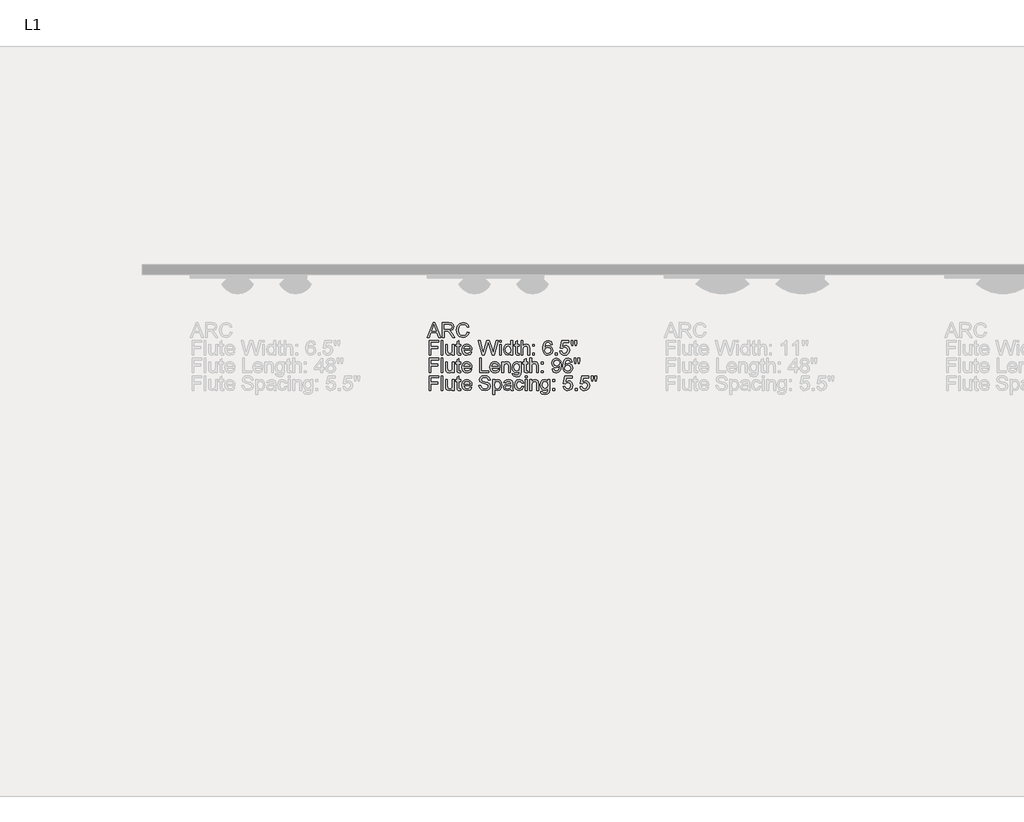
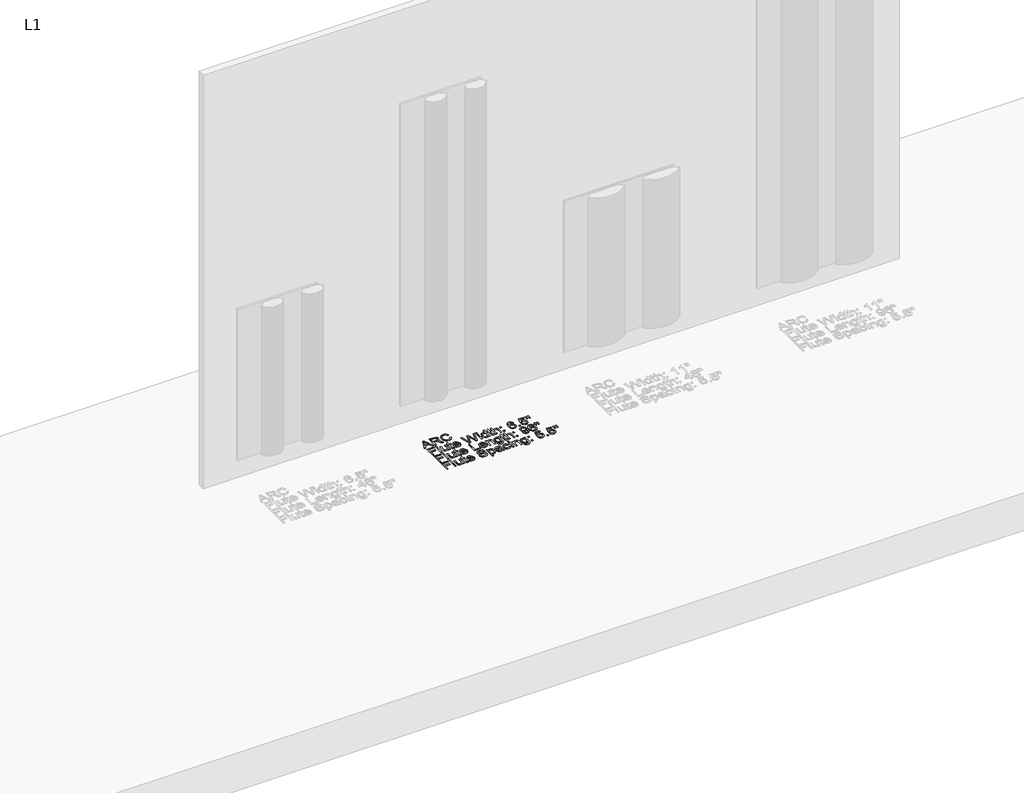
# One storey, part 3 of 17: 1 proxy.
"""IFC4 building model written with IfcOpenShell, lengths in millimetres."""

import ifcopenshell
import ifcopenshell.guid

model = None  # the IFC model being written
_history = None  # IfcOwnerHistory: only IFC2X3 demands one
_inside = {}  # id of a spatial element -> (the spatial element, [elements in it])
_under = {}  # id of a project, library or spatial element -> (it, [spatial elements below it])
_declared = {}  # id of a project -> (the project, [libraries it declares])
_typed = {}  # id of a type object -> (the type object, [elements of that type])
_made_of = {}  # id of a material, layer set ... -> (it, [elements and type objects made of it])


def new_model(schema):
    """Start an empty IFC model of exactly this schema.

    Asked for "IFC4X3", IfcOpenShell would pick the latest addendum, in which some entities
    have other attributes; the version numbers below select the first issue.
    IFC2X3 requires an IfcOwnerHistory on every rooted entity: one is made here for all.
    """
    global model, _history
    if schema == "IFC4X3":
        model = ifcopenshell.file(schema_version=(4, 3, 0, 0))
    else:
        model = ifcopenshell.file(schema=schema)
    _inside.clear()
    _under.clear()
    _declared.clear()
    _typed.clear()
    _made_of.clear()
    _history = None
    if model.schema == "IFC2X3":
        org = make("IfcOrganization", Name="unknown")
        user = make(
            "IfcPersonAndOrganization",
            ThePerson=make("IfcPerson", FamilyName="unknown"),
            TheOrganization=org,
        )
        app = make(
            "IfcApplication",
            ApplicationDeveloper=org,
            Version="unknown",
            ApplicationFullName="unknown",
            ApplicationIdentifier="unknown",
        )
        _history = make(
            "IfcOwnerHistory",
            OwningUser=user,
            OwningApplication=app,
            ChangeAction="ADDED",
            CreationDate=0,
        )
    return model


def make(cls, **values):
    """One entity of the class cls with the attributes given. An attribute that is None is left unset."""
    return model.create_entity(
        cls, **{name: value for name, value in values.items() if value is not None}
    )


def rooted(cls, **values):
    """An entity with a GlobalId (a new one), such as an element, a storey or a relation."""
    return make(cls, GlobalId=ifcopenshell.guid.new(), OwnerHistory=_history, **values)


def si_unit(unit_type, name, prefix=None):
    """IfcSIUnit, for example si_unit("LENGTHUNIT", "METRE", prefix="MILLI")."""
    return make("IfcSIUnit", UnitType=unit_type, Prefix=prefix, Name=name)


def assignment(units):
    """IfcUnitAssignment: the units of a project."""
    return None if units is None else make("IfcUnitAssignment", Units=units)


def point(xyz):
    """IfcCartesianPoint."""
    return None if xyz is None else make("IfcCartesianPoint", Coordinates=xyz)


def direction(xyz):
    """IfcDirection."""
    return None if xyz is None else make("IfcDirection", DirectionRatios=xyz)


def frame(location, z_axis=None, x_axis=None):
    """IfcAxis2Placement3D, a coordinate frame: its origin and axes. An axis left out is left unset."""
    return make(
        "IfcAxis2Placement3D",
        Location=point(location),
        Axis=direction(z_axis),
        RefDirection=direction(x_axis),
    )


def origin():
    """The frame at (0, 0, 0) with its axes left unset."""
    return frame((0.0, 0.0, 0.0))


def origin_with_axes():
    """The frame at (0, 0, 0) with the z axis (0, 0, 1) and the x axis (1, 0, 0) written out."""
    return frame((0.0, 0.0, 0.0), z_axis=(0.0, 0.0, 1.0), x_axis=(1.0, 0.0, 0.0))


def place(relative_to, where):
    """IfcLocalPlacement: puts the frame where relative to a parent placement (None: the world)."""
    return make(
        "IfcLocalPlacement", PlacementRelTo=relative_to, RelativePlacement=where
    )


def context(
    kind, dimensions, precision=None, world=None, true_north=None, identifier=None
):
    """IfcGeometricRepresentationContext, for example the 3D "Model" context."""
    return make(
        "IfcGeometricRepresentationContext",
        ContextIdentifier=identifier,
        ContextType=kind,
        CoordinateSpaceDimension=dimensions,
        Precision=precision,
        WorldCoordinateSystem=world,
        TrueNorth=true_north,
    )


def project(units=None, contexts=None):
    """IfcProject with its units and contexts."""
    return rooted(
        "IfcProject",
        Name="project",
        RepresentationContexts=contexts,
        UnitsInContext=assignment(units),
    )


def spatial(cls, under=None, at=None, **own):
    """A site, building, storey or space (cls), placed at a placement, below another one or the project."""
    s = rooted(cls, ObjectPlacement=at, **own)
    if under is not None:
        _under.setdefault(under.id(), (under, []))[1].append(s)
    return s


def polyline(points):
    """IfcPolyline through the points."""
    return make("IfcPolyline", Points=[point(p) for p in points])


def outline(outer, holes=None, kind="AREA"):
    """IfcArbitraryClosedProfileDef: a profile drawn as a closed curve; with holes, ...WithVoids."""
    if holes is None:
        return make("IfcArbitraryClosedProfileDef", ProfileType=kind, OuterCurve=outer)
    return make(
        "IfcArbitraryProfileDefWithVoids",
        ProfileType=kind,
        OuterCurve=outer,
        InnerCurves=holes,
    )


def extrude(swept, where, along, depth):
    """IfcExtrudedAreaSolid: the profile swept, set in the frame where, extruded along a direction by depth."""
    return make(
        "IfcExtrudedAreaSolid",
        SweptArea=swept,
        Position=where,
        ExtrudedDirection=direction(along),
        Depth=depth,
    )


def shape(context_of_items, identifier, shape_type, items):
    """IfcShapeRepresentation: the items that make up one representation, for example the "Body"."""
    return make(
        "IfcShapeRepresentation",
        ContextOfItems=context_of_items,
        RepresentationIdentifier=identifier,
        RepresentationType=shape_type,
        Items=items,
    )


def made_of(thing, what):
    """Note that an element or type object is made of a material, layer set ...; save() writes the relation."""
    if what is not None:
        _made_of.setdefault(what.id(), (what, []))[1].append(thing)
    return thing


def element(
    cls,
    number,
    at=None,
    inside=None,
    cuts=None,
    type_object=None,
    material=None,
    context=None,
    identifier="Body",
    shape_type=None,
    held_by="IfcProductDefinitionShape",
    body=None,
    shapes=None,
    **own,
):
    """One element of the class cls, such as IfcWall. Its Tag is "e" and its number.

    at: its placement. inside: the storey or other place that contains it. cuts: it is an
    opening in that element (IfcRelVoidsElement). A single representation is given by context,
    identifier, shape_type and body (its items); several are given by shapes. held_by: the class
    of the entity that holds the representations. save() writes the other relations.
    """
    e = rooted(cls, Tag="e%d" % number, ObjectPlacement=at, **own)
    if body is not None:
        shapes = [shape(context, identifier, shape_type, body)]
    if shapes is not None:
        e.Representation = make(held_by, Representations=shapes)
    if inside is not None:
        _inside.setdefault(inside.id(), (inside, []))[1].append(e)
    if cuts is not None:
        rooted(
            "IfcRelVoidsElement", RelatingBuildingElement=cuts, RelatedOpeningElement=e
        )
    if type_object is not None:
        _typed.setdefault(type_object.id(), (type_object, []))[1].append(e)
    return made_of(e, material)


def aggregate(whole, parts):
    """IfcRelAggregates: a whole, such as a stair, and the parts it consists of."""
    return rooted("IfcRelAggregates", RelatingObject=whole, RelatedObjects=parts)


def save(model, path):
    """Write the relations noted so far, then the file.

    IfcRelAggregates (storeys below a building ...), IfcRelContainedInSpatialStructure (elements
    in a storey), IfcRelDefinesByType, IfcRelAssociatesMaterial and IfcRelDeclares: one each for
    every whole, place, type object, material and project.
    """
    for whole, parts in _under.values():
        aggregate(whole, parts)
    for where, things in _inside.values():
        rooted(
            "IfcRelContainedInSpatialStructure",
            RelatedElements=things,
            RelatingStructure=where,
        )
    for kind, things in _typed.values():
        rooted("IfcRelDefinesByType", RelatedObjects=things, RelatingType=kind)
    for what, things in _made_of.values():
        rooted("IfcRelAssociatesMaterial", RelatedObjects=things, RelatingMaterial=what)
    for by, libraries in _declared.values():
        rooted("IfcRelDeclares", RelatingContext=by, RelatedDefinitions=libraries)
    model.write(path)


model = new_model("IFC4")

# Units and contexts
model_context = context("Model", 3, world=origin())
ifc_project = project(units=[si_unit("LENGTHUNIT", "METRE", prefix="MILLI")], contexts=[model_context])

# Site, building, storey
site = spatial("IfcSite", under=ifc_project)
building = spatial("IfcBuilding", under=site)
storey = spatial("IfcBuildingStorey", under=building, Name="L1", Elevation=0.0)

# Proxy
placement = place(None, origin())
element("IfcBuildingElementProxy", 1, Name="3\" Arial", ObjectType="3\" Arial", at=placement, inside=storey, context=model_context, shape_type="SweptSolid", body=[
    extrude(outline(polyline([(2749.0267247, -355.6), (2779.5822674, -279.0522917), (2787.7304121, -279.0522917), (2818.2672665, -355.6), (2808.1568392, -355.6), (2799.4106655, -331.6788411), (2767.8646372, -331.6788411), (2759.1184635, -355.6), (2749.0267247, -355.6)]), holes=[polyline([(2771.3780575, -322.1103776), (2795.9159337, -322.1103776), (2789.0012237, -303.2911534), (2783.6376514, -288.6207552), (2778.872108, -301.6465737), (2771.3780575, -322.1103776)])]), origin_with_axes(), (0.0, 0.0, 1.0), 3.175),
    extrude(outline(polyline([(2828.4898242, -355.6), (2828.4898242, -279.0522917), (2861.4748597, -279.0522917), (2876.7900079, -281.1173605), (2885.1624135, -288.424527), (2888.2927214, -300.0019941), (2883.1066889, -313.7940372), (2867.0813813, -320.9143197), (2872.5197072, -325.0070804), (2880.2753955, -334.8558701), (2893.0395763, -355.6), (2881.9199751, -355.6), (2871.9590551, -339.7335439), (2864.764019, -329.23066), (2859.7088054, -324.2688884), (2855.1581787, -322.4467689), (2849.6077223, -322.1103776), (2838.0582878, -322.1103776), (2838.0582878, -355.6), (2828.4898242, -355.6)]), holes=[polyline([(2838.0582878, -312.5419141), (2859.4752003, -312.5419141), (2870.3985732, -311.1870047), (2876.6031238, -306.8512946), (2878.7242578, -300.3570738), (2874.6782181, -291.928603), (2861.8860046, -288.6207552), (2838.0582878, -288.6207552), (2838.0582878, -312.5419141)])]), origin_with_axes(), (0.0, 0.0, 1.0), 3.175),
    extrude(outline(polyline([(2958.86014, -328.3896818), (2968.4286035, -330.8565513), (2964.0134678, -342.0065212), (2957.0847415, -350.1523298), (2947.9834881, -355.1351259), (2937.0507709, -356.7960579), (2917.138275, -351.7688769), (2905.4580217, -337.2106091), (2901.4493587, -316.7468053), (2905.981297, -295.9466101), (2918.8669525, -282.4629256), (2937.2563434, -277.8562337), (2947.7475469, -279.3466341), (2956.4213031, -283.817835), (2963.0066299, -290.9941827), (2967.2325456, -300.600023), (2957.664082, -302.8800085), (2949.8149518, -291.1156573), (2936.8825753, -287.4246973), (2921.9131626, -291.517458), (2913.4566592, -302.5062404), (2911.0178223, -316.7281169), (2913.9051809, -333.2112904), (2922.8943039, -343.7422068), (2936.0976623, -347.2275944), (2950.7400278, -342.4807394), (2958.86014, -328.3896818)])), origin_with_axes(), (0.0, 0.0, 1.0), 3.175),
    extrude(outline(polyline([(2757.9224056, -448.5448112), (2757.9224056, -371.9971029), (2809.3528971, -371.9971029), (2809.3528971, -381.5655664), (2767.4908691, -381.5655664), (2767.4908691, -404.2906673), (2803.3726074, -404.2906673), (2803.3726074, -413.8591309), (2767.4908691, -413.8591309), (2767.4908691, -448.5448112), (2757.9224056, -448.5448112)])), origin_with_axes(), (0.0, 0.0, 1.0), 3.175),
    extrude(outline(polyline([(2821.3134766, -448.5448112), (2821.3134766, -371.9971029), (2830.8819401, -371.9971029), (2830.8819401, -448.5448112), (2821.3134766, -448.5448112)])), origin_with_axes(), (0.0, 0.0, 1.0), 3.175),
    extrude(outline(polyline([(2881.1163737, -448.5448112), (2881.1163737, -438.8829056), (2873.6223232, -447.0263783), (2863.8482872, -449.7408691), (2854.84982, -447.8346518), (2848.6452694, -443.05042), (2845.7952876, -436.0048912), (2845.2346354, -427.1092103), (2845.2346354, -392.3300879), (2854.803099, -392.3300879), (2854.803099, -422.6053046), (2855.3824395, -432.3606522), (2859.1668416, -438.0886484), (2866.2964683, -440.1724056), (2874.2857615, -438.0419274), (2879.5652361, -432.2391775), (2881.1163737, -421.5774423), (2881.1163737, -392.3300879), (2890.6848372, -392.3300879), (2890.6848372, -448.5448112), (2881.1163737, -448.5448112)])), origin_with_axes(), (0.0, 0.0, 1.0), 3.175),
    extrude(outline(polyline([(2924.1744596, -440.5648621), (2925.3705176, -448.8251373), (2918.2128583, -449.7408691), (2910.1955324, -448.1523547), (2906.1962137, -443.9848403), (2905.0375326, -433.1268768), (2905.0375326, -401.8985514), (2897.8611849, -401.8985514), (2897.8611849, -392.3300879), (2905.0375326, -392.3300879), (2905.0375326, -378.6688636), (2914.6059961, -373.0436536), (2914.6059961, -392.3300879), (2924.1744596, -392.3300879), (2924.1744596, -401.8985514), (2914.6059961, -401.8985514), (2914.6059961, -432.8465507), (2915.110583, -437.7802897), (2916.7458185, -439.5276556), (2920.0069452, -440.1724056), (2924.1744596, -440.5648621)])), origin_with_axes(), (0.0, 0.0, 1.0), 3.175),
    extrude(outline(polyline([(2973.1007049, -431.8), (2982.4822843, -432.9960579), (2973.708078, -445.3490939), (2957.3650675, -449.7408691), (2946.138008, -447.846332), (2937.4992927, -442.1627208), (2931.9908852, -433.0591313), (2930.1547494, -420.9046597), (2932.0095736, -408.3413792), (2937.5740463, -398.9457834), (2946.0959591, -393.0869683), (2956.8231038, -391.1340299), (2967.2161932, -393.0822962), (2975.5208533, -398.927095), (2980.9661875, -408.3040024), (2982.7812988, -420.8485945), (2982.7252336, -423.4275944), (2939.7232129, -423.4275944), (2945.2269483, -435.855384), (2957.5519516, -440.1724056), (2966.9335311, -438.1727462), (2973.1007049, -431.8)]), holes=[polyline([(2939.7232129, -413.8591309), (2973.2128353, -413.8591309), (2969.3817122, -405.1877108), (2956.785727, -400.7024935), (2945.0026874, -404.2813231), (2939.7232129, -413.8591309)])]), origin_with_axes(), (0.0, 0.0, 1.0), 3.175),
    extrude(outline(polyline([(3037.14587, -448.5448112), (3016.2709212, -371.9971029), (3026.1383993, -371.9971029), (3038.2484859, -422.3062901), (3041.986167, -437.8363549), (3045.9854857, -424.100377), (3061.1604709, -371.9971029), (3075.3823474, -371.9971029), (3086.4085065, -409.7663701), (3094.6127165, -437.8363549), (3098.2382671, -422.7548118), (3110.4417958, -371.9971029), (3120.3279622, -371.9971029), (3099.4717019, -448.5448112), (3089.2304557, -448.5448112), (3070.8597533, -389.4894503), (3068.2994417, -381.2478635), (3065.4214273, -391.1714068), (3048.6953045, -448.5448112), (3037.14587, -448.5448112)])), origin_with_axes(), (0.0, 0.0, 1.0), 3.175),
    extrude(outline(polyline([(3128.7003678, -448.5448112), (3128.7003678, -392.3300879), (3138.2688314, -392.3300879), (3138.2688314, -448.5448112), (3128.7003678, -448.5448112)])), origin_with_axes(), (0.0, 0.0, 1.0), 3.175),
    extrude(outline(polyline([(3128.7003678, -381.5655664), (3128.7003678, -371.9971029), (3138.2688314, -371.9971029), (3138.2688314, -381.5655664), (3128.7003678, -381.5655664)])), origin_with_axes(), (0.0, 0.0, 1.0), 3.175),
    extrude(outline(polyline([(3187.307207, -448.5448112), (3187.307207, -439.5183114), (3180.9765097, -447.1852297), (3172.2256639, -449.7408691), (3160.3772149, -446.0405649), (3152.0048093, -435.7152209), (3149.0333529, -420.4935148), (3151.7712043, -405.2624644), (3159.9754142, -394.778269), (3172.1882871, -391.1340299), (3181.0092144, -393.7410625), (3187.307207, -400.5156094), (3187.307207, -371.9971029), (3196.8756706, -371.9971029), (3196.8756706, -448.5448112), (3187.307207, -448.5448112)]), holes=[polyline([(3158.6018164, -420.4561379), (3162.918838, -435.2666992), (3173.104019, -440.1724056), (3183.1677252, -435.4909601), (3187.307207, -421.1849858), (3183.0929716, -405.6549209), (3172.7115625, -400.7024935), (3162.638512, -405.4586927), (3158.6018164, -420.4561379)])]), origin_with_axes(), (0.0, 0.0, 1.0), 3.175),
    extrude(outline(polyline([(3231.5613509, -440.5648621), (3232.7574089, -448.8251373), (3225.5997496, -449.7408691), (3217.5824237, -448.1523547), (3213.583105, -443.9848403), (3212.4244238, -433.1268768), (3212.4244238, -401.8985514), (3205.2480762, -401.8985514), (3205.2480762, -392.3300879), (3212.4244238, -392.3300879), (3212.4244238, -378.6688636), (3221.9928874, -373.0436536), (3221.9928874, -392.3300879), (3231.5613509, -392.3300879), (3231.5613509, -401.8985514), (3221.9928874, -401.8985514), (3221.9928874, -432.8465507), (3222.4974743, -437.7802897), (3224.1327098, -439.5276556), (3227.3938365, -440.1724056), (3231.5613509, -440.5648621)])), origin_with_axes(), (0.0, 0.0, 1.0), 3.175),
    extrude(outline(polyline([(3241.1298145, -448.5448112), (3241.1298145, -371.9971029), (3250.698278, -371.9971029), (3250.698278, -400.1418413), (3258.1596238, -393.3859828), (3267.3496472, -391.1340299), (3278.0954802, -393.5915553), (3284.6177337, -400.3847906), (3286.5800163, -412.9620874), (3286.5800163, -448.5448112), (3277.0115527, -448.5448112), (3277.0115527, -413.9525729), (3273.9653427, -403.860834), (3265.3312994, -400.7024935), (3257.4915133, -402.8329717), (3252.2587598, -408.607689), (3250.698278, -418.6807394), (3250.698278, -448.5448112), (3241.1298145, -448.5448112)])), origin_with_axes(), (0.0, 0.0, 1.0), 3.175),
    extrude(outline(polyline([(3302.1287695, -401.8985514), (3302.1287695, -392.3300879), (3311.6972331, -392.3300879), (3311.6972331, -401.8985514), (3302.1287695, -401.8985514)])), origin_with_axes(), (0.0, 0.0, 1.0), 3.175),
    extrude(outline(polyline([(3302.1287695, -448.5448112), (3302.1287695, -438.9763477), (3311.6972331, -438.9763477), (3311.6972331, -448.5448112), (3302.1287695, -448.5448112)])), origin_with_axes(), (0.0, 0.0, 1.0), 3.175),
    extrude(outline(polyline([(3406.1858106, -392.3300879), (3396.617347, -393.5261458), (3392.9917964, -385.5461967), (3383.4046444, -381.5655664), (3374.7706012, -383.8829287), (3368.2390035, -392.5823814), (3365.5198405, -409.6355512), (3373.9576555, -402.0013377), (3384.4138183, -399.5064355), (3393.253434, -401.2117525), (3400.672731, -406.3277035), (3405.7045841, -414.144129), (3407.3818685, -423.9508698), (3404.223528, -437.1542281), (3395.5334195, -446.4984308), (3382.9934995, -449.7408691), (3372.137872, -447.5917025), (3363.4921485, -441.1442027), (3357.8365698, -429.7629638), (3355.951377, -412.8125802), (3358.0444784, -393.7550788), (3364.3237826, -380.7245882), (3372.8970885, -374.1789742), (3384.0026734, -371.9971029), (3399.1215933, -377.398052), (3406.1858106, -392.3300879)]), holes=[polyline([(3365.5198405, -423.8013625), (3367.7344165, -432.0896703), (3373.6212642, -438.1073368), (3382.2459633, -440.1724056), (3393.5244159, -435.8927608), (3397.813405, -424.2685726), (3393.5804811, -413.1396273), (3381.8535068, -409.0748991), (3370.2760397, -413.1396273), (3365.5198405, -423.8013625)])]), origin_with_axes(), (0.0, 0.0, 1.0), 3.175),
    extrude(outline(polyline([(3420.5385059, -448.5448112), (3420.5385059, -438.9763477), (3430.1069694, -438.9763477), (3430.1069694, -448.5448112), (3420.5385059, -448.5448112)])), origin_with_axes(), (0.0, 0.0, 1.0), 3.175),
    extrude(outline(polyline([(3445.6557227, -428.2118262), (3455.2241862, -427.0157682), (3460.0457948, -436.8739021), (3470.0440917, -440.1724056), (3482.0420479, -435.5844021), (3486.3216927, -423.408906), (3482.3130298, -412.0463555), (3470.1935989, -407.8788411), (3461.7931607, -409.5421092), (3456.4202441, -413.8591309), (3446.8517806, -412.6630729), (3455.2241862, -373.1931608), (3492.3019824, -373.1931608), (3492.3019824, -382.7616243), (3462.961186, -382.7616243), (3458.8497368, -403.8421456), (3472.8473525, -398.3103776), (3481.7897544, -400.0250388), (3489.2183955, -405.1690224), (3494.2222161, -413.0088084), (3495.8901563, -422.810877), (3494.3904117, -432.3793406), (3489.8911781, -440.5648621), (3481.2758233, -447.4468674), (3470.0067148, -449.7408691), (3460.608783, -448.2668212), (3453.1217406, -443.8446773), (3447.9894373, -436.9883685), (3445.6557227, -428.2118262)])), origin_with_axes(), (0.0, 0.0, 1.0), 3.175),
    extrude(outline(polyline([(3506.5986125, -399.5064355), (3504.2625619, -384.7239069), (3504.2625619, -371.9971029), (3513.8310254, -371.9971029), (3513.8310254, -384.7239069), (3511.737924, -399.5064355), (3506.5986125, -399.5064355)])), origin_with_axes(), (0.0, 0.0, 1.0), 3.175),
    extrude(outline(polyline([(3525.6794744, -399.5064355), (3523.3994889, -384.7239069), (3523.3994889, -371.9971029), (3532.9679525, -371.9971029), (3532.9679525, -384.7239069), (3530.7253438, -399.5064355), (3525.6794744, -399.5064355)])), origin_with_axes(), (0.0, 0.0, 1.0), 3.175),
    extrude(outline(polyline([(2757.9224056, -541.4896224), (2757.9224056, -464.9419141), (2809.3528971, -464.9419141), (2809.3528971, -474.5103776), (2767.4908691, -474.5103776), (2767.4908691, -497.2354785), (2803.3726074, -497.2354785), (2803.3726074, -506.8039421), (2767.4908691, -506.8039421), (2767.4908691, -541.4896224), (2757.9224056, -541.4896224)])), origin_with_axes(), (0.0, 0.0, 1.0), 3.175),
    extrude(outline(polyline([(2821.3134766, -541.4896224), (2821.3134766, -464.9419141), (2830.8819401, -464.9419141), (2830.8819401, -541.4896224), (2821.3134766, -541.4896224)])), origin_with_axes(), (0.0, 0.0, 1.0), 3.175),
    extrude(outline(polyline([(2881.1163737, -541.4896224), (2881.1163737, -531.8277168), (2873.6223232, -539.9711895), (2863.8482872, -542.6856803), (2854.84982, -540.779463), (2848.6452694, -535.9952312), (2845.7952876, -528.9497024), (2845.2346354, -520.0540215), (2845.2346354, -485.2748991), (2854.803099, -485.2748991), (2854.803099, -515.5501158), (2855.3824395, -525.3054634), (2859.1668416, -531.0334596), (2866.2964683, -533.1172168), (2874.2857615, -530.9867386), (2879.5652361, -525.1839887), (2881.1163737, -514.5222535), (2881.1163737, -485.2748991), (2890.6848372, -485.2748991), (2890.6848372, -541.4896224), (2881.1163737, -541.4896224)])), origin_with_axes(), (0.0, 0.0, 1.0), 3.175),
    extrude(outline(polyline([(2924.1744596, -533.5096733), (2925.3705176, -541.7699485), (2918.2128583, -542.6856803), (2910.1955324, -541.0971659), (2906.1962137, -536.9296515), (2905.0375326, -526.071688), (2905.0375326, -494.8433626), (2897.8611849, -494.8433626), (2897.8611849, -485.2748991), (2905.0375326, -485.2748991), (2905.0375326, -471.6136748), (2914.6059961, -465.9884648), (2914.6059961, -485.2748991), (2924.1744596, -485.2748991), (2924.1744596, -494.8433626), (2914.6059961, -494.8433626), (2914.6059961, -525.7913619), (2915.110583, -530.7251009), (2916.7458185, -532.4724668), (2920.0069452, -533.1172168), (2924.1744596, -533.5096733)])), origin_with_axes(), (0.0, 0.0, 1.0), 3.175),
    extrude(outline(polyline([(2973.1007049, -524.7448112), (2982.4822843, -525.9408691), (2973.708078, -538.2939051), (2957.3650675, -542.6856803), (2946.138008, -540.7911432), (2937.4992927, -535.107532), (2931.9908852, -526.0039425), (2930.1547494, -513.8494709), (2932.0095736, -501.2861904), (2937.5740463, -491.8905946), (2946.0959591, -486.0317795), (2956.8231038, -484.0788411), (2967.2161932, -486.0271074), (2975.5208533, -491.8719062), (2980.9661875, -501.2488136), (2982.7812988, -513.7934057), (2982.7252336, -516.3724056), (2939.7232129, -516.3724056), (2945.2269483, -528.8001952), (2957.5519516, -533.1172168), (2966.9335311, -531.1175574), (2973.1007049, -524.7448112)]), holes=[polyline([(2939.7232129, -506.8039421), (2973.2128353, -506.8039421), (2969.3817122, -498.132522), (2956.785727, -493.6473047), (2945.0026874, -497.2261343), (2939.7232129, -506.8039421)])]), origin_with_axes(), (0.0, 0.0, 1.0), 3.175),
    extrude(outline(polyline([(3023.4472689, -541.4896224), (3023.4472689, -464.9419141), (3033.0157324, -464.9419141), (3033.0157324, -531.9211589), (3071.2895866, -531.9211589), (3071.2895866, -541.4896224), (3023.4472689, -541.4896224)])), origin_with_axes(), (0.0, 0.0, 1.0), 3.175),
    extrude(outline(polyline([(3120.2158318, -524.7448112), (3129.5974113, -525.9408691), (3120.823205, -538.2939051), (3104.4801945, -542.6856803), (3093.253135, -540.7911432), (3084.6144196, -535.107532), (3079.1060121, -526.0039425), (3077.2698763, -513.8494709), (3079.1247005, -501.2861904), (3084.6891732, -491.8905946), (3093.2110861, -486.0317795), (3103.9382307, -484.0788411), (3114.3313202, -486.0271074), (3122.6359803, -491.8719062), (3128.0813144, -501.2488136), (3129.8964258, -513.7934057), (3129.8403606, -516.3724056), (3086.8383398, -516.3724056), (3092.3420752, -528.8001952), (3104.6670786, -533.1172168), (3114.048658, -531.1175574), (3120.2158318, -524.7448112)]), holes=[polyline([(3086.8383398, -506.8039421), (3120.3279622, -506.8039421), (3116.4968391, -498.132522), (3103.9008539, -493.6473047), (3092.1178144, -497.2261343), (3086.8383398, -506.8039421)])]), origin_with_axes(), (0.0, 0.0, 1.0), 3.175),
    extrude(outline(polyline([(3139.4648893, -541.4896224), (3139.4648893, -485.2748991), (3149.0333529, -485.2748991), (3149.0333529, -493.1240293), (3156.3498636, -486.3401382), (3166.3388162, -484.0788411), (3175.3746602, -485.9009607), (3181.541834, -490.6851924), (3184.4105042, -497.7213771), (3184.9150911, -506.9721377), (3184.9150911, -541.4896224), (3175.3466276, -541.4896224), (3175.3466276, -508.2616377), (3174.2440117, -499.79579), (3170.3474792, -495.319917), (3163.7785047, -493.6473047), (3153.3970955, -497.4036742), (3149.0333529, -511.6629274), (3149.0333529, -541.4896224), (3139.4648893, -541.4896224)])), origin_with_axes(), (0.0, 0.0, 1.0), 3.175),
    extrude(outline(polyline([(3195.6796126, -546.2738542), (3205.2480762, -547.4699121), (3208.3503515, -552.5157816), (3217.6384889, -554.6462598), (3227.4312133, -552.2354555), (3232.1033147, -545.4702527), (3232.7574089, -534.3132747), (3226.0202387, -539.6955355), (3217.8066846, -541.4896224), (3207.9415426, -539.4011931), (3200.585319, -533.1359052), (3196.0089958, -523.950554), (3194.4835547, -513.1019347), (3197.2214061, -498.272685), (3205.1452899, -487.7791454), (3217.3394744, -484.0788411), (3225.8754036, -486.1719425), (3232.7574089, -492.4512467), (3232.7574089, -485.2748991), (3242.3258724, -485.2748991), (3242.3258724, -533.8086878), (3239.7094957, -552.3943069), (3231.4211879, -561.0376944), (3217.4516049, -564.2147233), (3201.5384277, -559.7388502), (3197.0415302, -554.1346647), (3195.6796126, -546.2738542)]), holes=[polyline([(3204.0520182, -512.4478405), (3208.1354348, -527.2584017), (3218.3860251, -531.9211589), (3228.6179271, -527.2864343), (3232.7574089, -512.7281666), (3228.4964524, -498.4595691), (3218.2365179, -493.6473047), (3208.1915, -498.3848154), (3204.0520182, -512.4478405)])]), origin_with_axes(), (0.0, 0.0, 1.0), 3.175),
    extrude(outline(polyline([(3277.0115527, -533.5096733), (3278.2076107, -541.7699485), (3271.0499514, -542.6856803), (3263.0326255, -541.0971659), (3259.0333068, -536.9296515), (3257.8746257, -526.071688), (3257.8746257, -494.8433626), (3250.698278, -494.8433626), (3250.698278, -485.2748991), (3257.8746257, -485.2748991), (3257.8746257, -471.6136748), (3267.4430892, -465.9884648), (3267.4430892, -485.2748991), (3277.0115527, -485.2748991), (3277.0115527, -494.8433626), (3267.4430892, -494.8433626), (3267.4430892, -525.7913619), (3267.9476761, -530.7251009), (3269.5829116, -532.4724668), (3272.8440383, -533.1172168), (3277.0115527, -533.5096733)])), origin_with_axes(), (0.0, 0.0, 1.0), 3.175),
    extrude(outline(polyline([(3286.5800163, -541.4896224), (3286.5800163, -464.9419141), (3296.1484798, -464.9419141), (3296.1484798, -493.0866525), (3303.6098257, -486.330794), (3312.799849, -484.0788411), (3323.5456821, -486.5363664), (3330.0679355, -493.3296018), (3332.0302181, -505.9068986), (3332.0302181, -541.4896224), (3322.4617546, -541.4896224), (3322.4617546, -506.8973841), (3319.4155445, -496.8056452), (3310.7815012, -493.6473047), (3302.9417152, -495.7777829), (3297.7089617, -501.5525002), (3296.1484798, -511.6255506), (3296.1484798, -541.4896224), (3286.5800163, -541.4896224)])), origin_with_axes(), (0.0, 0.0, 1.0), 3.175),
    extrude(outline(polyline([(3347.5789714, -494.8433626), (3347.5789714, -485.2748991), (3357.1474349, -485.2748991), (3357.1474349, -494.8433626), (3347.5789714, -494.8433626)])), origin_with_axes(), (0.0, 0.0, 1.0), 3.175),
    extrude(outline(polyline([(3347.5789714, -541.4896224), (3347.5789714, -531.9211589), (3357.1474349, -531.9211589), (3357.1474349, -541.4896224), (3347.5789714, -541.4896224)])), origin_with_axes(), (0.0, 0.0, 1.0), 3.175),
    extrude(outline(polyline([(3403.7936947, -522.3526953), (3413.3621582, -521.1566374), (3417.6604914, -530.2859234), (3425.8086362, -533.1172168), (3433.5549802, -531.2950973), (3438.8064221, -526.4267677), (3441.93673, -518.1104273), (3443.319672, -507.0095145), (3443.2636068, -505.140674), (3435.6107048, -512.3917753), (3425.1171652, -515.1763477), (3416.3920159, -513.4757028), (3409.1292344, -508.3737681), (3404.2305361, -500.4919331), (3402.5976367, -490.4515874), (3404.3099619, -480.0795224), (3409.4469373, -471.9500661), (3417.1629126, -466.6939521), (3426.6122376, -464.9419141), (3440.2454293, -468.9412328), (3449.6270088, -480.3411601), (3452.8320703, -501.7580726), (3449.636353, -524.9971047), (3440.1332989, -538.1630862), (3425.3601144, -542.6856803), (3410.6523394, -537.3501406), (3403.7936947, -522.3526953)]), holes=[polyline([(3443.2636068, -490.2273265), (3439.1334692, -478.7526456), (3428.1633753, -474.5103776), (3416.6513176, -479.0796927), (3412.1661003, -490.9187975), (3416.4083683, -501.5244675), (3427.9017376, -505.6078841), (3438.9372409, -501.5244675), (3443.2636068, -490.2273265)])]), origin_with_axes(), (0.0, 0.0, 1.0), 3.175),
    extrude(outline(polyline([(3510.2428516, -485.2748991), (3500.674388, -486.470957), (3497.0488374, -478.4910079), (3487.4616854, -474.5103776), (3478.8276422, -476.8277399), (3472.2960445, -485.5271926), (3469.5768815, -502.5803624), (3478.0146965, -494.9461489), (3488.4708593, -492.4512467), (3497.3104751, -494.1565637), (3504.729772, -499.2725147), (3509.7616251, -507.0889402), (3511.4389095, -516.8956809), (3508.280569, -530.0990393), (3499.5904605, -539.443242), (3487.0505405, -542.6856803), (3476.1949131, -540.5365137), (3467.5491895, -534.0890139), (3461.8936109, -522.707775), (3460.008418, -505.7573914), (3462.1015194, -486.69989), (3468.3808236, -473.6693994), (3476.9541295, -467.1237854), (3488.0597144, -464.9419141), (3503.1786343, -470.3428632), (3510.2428516, -485.2748991)]), holes=[polyline([(3469.5768815, -516.7461737), (3471.7914576, -525.0344815), (3477.6783052, -531.052148), (3486.3030043, -533.1172168), (3497.5814569, -528.837572), (3501.870446, -517.2133838), (3497.6375222, -506.0844385), (3485.9105478, -502.0197103), (3474.3330807, -506.0844385), (3469.5768815, -516.7461737)])]), origin_with_axes(), (0.0, 0.0, 1.0), 3.175),
    extrude(outline(polyline([(3522.1473658, -492.4512467), (3519.8113151, -477.6687181), (3519.8113151, -464.9419141), (3529.3797787, -464.9419141), (3529.3797787, -477.6687181), (3527.2866773, -492.4512467), (3522.1473658, -492.4512467)])), origin_with_axes(), (0.0, 0.0, 1.0), 3.175),
    extrude(outline(polyline([(3541.2282276, -492.4512467), (3538.9482422, -477.6687181), (3538.9482422, -464.9419141), (3548.5167057, -464.9419141), (3548.5167057, -477.6687181), (3546.2740971, -492.4512467), (3541.2282276, -492.4512467)])), origin_with_axes(), (0.0, 0.0, 1.0), 3.175),
    extrude(outline(polyline([(2757.9224056, -634.4344336), (2757.9224056, -557.8867253), (2809.3528971, -557.8867253), (2809.3528971, -567.4551888), (2767.4908691, -567.4551888), (2767.4908691, -590.1802897), (2803.3726074, -590.1802897), (2803.3726074, -599.7487533), (2767.4908691, -599.7487533), (2767.4908691, -634.4344336), (2757.9224056, -634.4344336)])), origin_with_axes(), (0.0, 0.0, 1.0), 3.175),
    extrude(outline(polyline([(2821.3134766, -634.4344336), (2821.3134766, -557.8867253), (2830.8819401, -557.8867253), (2830.8819401, -634.4344336), (2821.3134766, -634.4344336)])), origin_with_axes(), (0.0, 0.0, 1.0), 3.175),
    extrude(outline(polyline([(2881.1163737, -634.4344336), (2881.1163737, -624.772528), (2873.6223232, -632.9160007), (2863.8482872, -635.6304915), (2854.84982, -633.7242742), (2848.6452694, -628.9400424), (2845.7952876, -621.8945136), (2845.2346354, -612.9988327), (2845.2346354, -578.2197103), (2854.803099, -578.2197103), (2854.803099, -608.494927), (2855.3824395, -618.2502746), (2859.1668416, -623.9782708), (2866.2964683, -626.062028), (2874.2857615, -623.9315498), (2879.5652361, -618.1287999), (2881.1163737, -607.4670647), (2881.1163737, -578.2197103), (2890.6848372, -578.2197103), (2890.6848372, -634.4344336), (2881.1163737, -634.4344336)])), origin_with_axes(), (0.0, 0.0, 1.0), 3.175),
    extrude(outline(polyline([(2924.1744596, -626.4544845), (2925.3705176, -634.7147597), (2918.2128583, -635.6304915), (2910.1955324, -634.0419771), (2906.1962137, -629.8744627), (2905.0375326, -619.0164992), (2905.0375326, -587.7881738), (2897.8611849, -587.7881738), (2897.8611849, -578.2197103), (2905.0375326, -578.2197103), (2905.0375326, -564.558486), (2914.6059961, -558.933276), (2914.6059961, -578.2197103), (2924.1744596, -578.2197103), (2924.1744596, -587.7881738), (2914.6059961, -587.7881738), (2914.6059961, -618.7361731), (2915.110583, -623.6699121), (2916.7458185, -625.417278), (2920.0069452, -626.062028), (2924.1744596, -626.4544845)])), origin_with_axes(), (0.0, 0.0, 1.0), 3.175),
    extrude(outline(polyline([(2973.1007049, -617.6896224), (2982.4822843, -618.8856803), (2973.708078, -631.2387163), (2957.3650675, -635.6304915), (2946.138008, -633.7359544), (2937.4992927, -628.0523432), (2931.9908852, -618.9487537), (2930.1547494, -606.7942821), (2932.0095736, -594.2310016), (2937.5740463, -584.8354058), (2946.0959591, -578.9765907), (2956.8231038, -577.0236523), (2967.2161932, -578.9719186), (2975.5208533, -584.8167174), (2980.9661875, -594.1936248), (2982.7812988, -606.7382169), (2982.7252336, -609.3172168), (2939.7232129, -609.3172168), (2945.2269483, -621.7450064), (2957.5519516, -626.062028), (2966.9335311, -624.0623686), (2973.1007049, -617.6896224)]), holes=[polyline([(2939.7232129, -599.7487533), (2973.2128353, -599.7487533), (2969.3817122, -591.0773332), (2956.785727, -586.5921159), (2945.0026874, -590.1709455), (2939.7232129, -599.7487533)])]), origin_with_axes(), (0.0, 0.0, 1.0), 3.175),
    extrude(outline(polyline([(3019.8590951, -608.1211589), (3029.4275586, -608.1211589), (3032.5111455, -617.6989666), (3040.0425728, -623.7540099), (3051.5172537, -626.062028), (3061.5155506, -624.3146621), (3067.9723946, -619.5117419), (3070.0935286, -613.0922747), (3068.5050142, -607.1213292), (3062.0014491, -602.7762749), (3048.0692429, -599.1226917), (3033.0717976, -594.4038693), (3024.9329971, -587.2835869), (3022.2512109, -577.7711886), (3025.5684029, -566.9412577), (3035.2583411, -559.2976999), (3049.4428407, -556.6906673), (3064.5804491, -559.4191745), (3074.672188, -567.4365004), (3078.4659342, -579.4157682), (3068.8974707, -579.4157682), (3063.4778332, -569.585667), (3049.8166088, -566.2591309), (3036.1180077, -569.5482902), (3031.8196745, -577.4908625), (3034.8658846, -584.1252464), (3050.4893914, -589.4701303), (3067.4210867, -594.2730505), (3076.6811915, -602.0287387), (3079.6619922, -612.8493254), (3076.2326698, -624.2959737), (3066.3651918, -632.6496909), (3051.8910218, -635.6304915), (3034.8004751, -632.4160858), (3023.9892326, -622.7354918), (3019.8590951, -608.1211589)])), origin_with_axes(), (0.0, 0.0, 1.0), 3.175),
    extrude(outline(polyline([(3092.8186296, -655.9634766), (3092.8186296, -578.2197103), (3102.3870931, -578.2197103), (3102.3870931, -587.6012898), (3109.0027886, -579.6680617), (3117.9358464, -577.0236523), (3130.0646214, -580.7239566), (3137.9885053, -591.1520868), (3140.6609473, -605.8972386), (3137.6427698, -621.3992709), (3128.8779077, -631.9582199), (3116.7771652, -635.6304915), (3108.4514806, -633.1729662), (3102.3870931, -626.9590715), (3102.3870931, -655.9634766), (3092.8186296, -655.9634766)]), holes=[polyline([(3102.3870931, -606.7755937), (3106.5265749, -621.3525498), (3116.5715928, -626.062028), (3126.8221831, -621.1843542), (3131.0924837, -606.0654343), (3126.9249693, -591.4511013), (3116.9640493, -586.5921159), (3106.806901, -591.75946), (3102.3870931, -606.7755937)])]), origin_with_axes(), (0.0, 0.0, 1.0), 3.175),
    extrude(outline(polyline([(3187.307207, -627.2580859), (3178.0284138, -633.7429626), (3167.7778234, -635.6304915), (3153.8829941, -631.089209), (3149.0333529, -619.4837093), (3150.8648166, -611.9149051), (3155.677081, -606.420514), (3162.3768743, -603.2808619), (3170.6558379, -601.8418547), (3187.2511418, -598.5526953), (3187.307207, -596.4222171), (3184.6721419, -589.3579999), (3174.0945044, -586.5921159), (3164.4139105, -588.4329238), (3159.7978744, -594.9645215), (3150.2294108, -593.7684635), (3154.3688926, -584.4242609), (3162.7039214, -578.9485581), (3175.3279392, -577.0236523), (3186.9240947, -578.7242972), (3193.4743808, -582.9945979), (3196.4084604, -589.4888187), (3196.8756706, -597.8612243), (3196.8756706, -609.7657385), (3197.3615691, -626.3890751), (3199.2677865, -634.4344336), (3189.6993229, -634.4344336), (3187.307207, -627.2580859)]), holes=[polyline([(3187.307207, -608.1211589), (3171.8705842, -611.0552385), (3163.6383417, -612.6063761), (3159.9100048, -615.1293109), (3158.6018164, -618.8109267), (3161.4517982, -623.987615), (3169.8148596, -626.062028), (3179.4954536, -623.7726983), (3185.737381, -618.2315862), (3187.2511418, -610.8309776), (3187.307207, -608.1211589)])]), origin_with_axes(), (0.0, 0.0, 1.0), 3.175),
    extrude(outline(polyline([(3245.9140462, -614.1014486), (3255.4825098, -615.2975065), (3247.8015752, -630.2388866), (3232.62659, -635.6304915), (3222.4484173, -633.7499707), (3214.4894926, -628.1084084), (3209.3525172, -618.9534258), (3207.6401921, -606.5326444), (3210.5649275, -590.6381556), (3219.4792969, -580.4249421), (3232.4957712, -577.0236523), (3247.0446948, -581.6957537), (3254.2864518, -594.9645215), (3244.7179883, -596.1605794), (3240.279492, -588.993576), (3232.5705248, -586.5921159), (3221.4789562, -591.3202824), (3217.2086556, -606.2710067), (3221.3855142, -621.361894), (3232.3088871, -626.062028), (3241.3260427, -623.1279484), (3245.9140462, -614.1014486)])), origin_with_axes(), (0.0, 0.0, 1.0), 3.175),
    extrude(outline(polyline([(3263.8549154, -567.4551888), (3263.8549154, -557.8867253), (3273.4233789, -557.8867253), (3273.4233789, -567.4551888), (3263.8549154, -567.4551888)])), origin_with_axes(), (0.0, 0.0, 1.0), 3.175),
    extrude(outline(polyline([(3263.8549154, -634.4344336), (3263.8549154, -578.2197103), (3273.4233789, -578.2197103), (3273.4233789, -634.4344336), (3263.8549154, -634.4344336)])), origin_with_axes(), (0.0, 0.0, 1.0), 3.175),
    extrude(outline(polyline([(3287.7760742, -634.4344336), (3287.7760742, -578.2197103), (3297.3445378, -578.2197103), (3297.3445378, -586.0688405), (3304.6610485, -579.2849494), (3314.6500011, -577.0236523), (3323.6858451, -578.8457719), (3329.8530189, -583.6300036), (3332.7216891, -590.6661883), (3333.226276, -599.9169489), (3333.226276, -634.4344336), (3323.6578125, -634.4344336), (3323.6578125, -601.2064489), (3322.5551966, -592.7406012), (3318.6586641, -588.2647282), (3312.0896896, -586.5921159), (3301.7082804, -590.3484854), (3297.3445378, -604.6077386), (3297.3445378, -634.4344336), (3287.7760742, -634.4344336)])), origin_with_axes(), (0.0, 0.0, 1.0), 3.175),
    extrude(outline(polyline([(3343.9907975, -639.2186654), (3353.5592611, -640.4147233), (3356.6615364, -645.4605928), (3365.9496738, -647.591071), (3375.7423982, -645.1802667), (3380.4144996, -638.4150639), (3381.0685938, -627.2580859), (3374.3314236, -632.6403467), (3366.1178695, -634.4344336), (3356.2527275, -632.3460043), (3348.8965039, -626.0807164), (3344.3201807, -616.8953652), (3342.7947396, -606.0467459), (3345.532591, -591.2174962), (3353.4564748, -580.7239566), (3365.6506593, -577.0236523), (3374.1865885, -579.1167537), (3381.0685938, -585.3960579), (3381.0685938, -578.2197103), (3390.6370573, -578.2197103), (3390.6370573, -626.753499), (3388.0206805, -645.3391181), (3379.7323728, -653.9825056), (3365.7627898, -657.1595345), (3349.8496126, -652.6836614), (3345.3527151, -647.0794759), (3343.9907975, -639.2186654)]), holes=[polyline([(3352.3632031, -605.3926517), (3356.4466197, -620.2032129), (3366.69721, -624.8659701), (3376.929112, -620.2312455), (3381.0685938, -605.6729778), (3376.8076373, -591.4043803), (3366.5477028, -586.5921159), (3356.5026849, -591.3296266), (3352.3632031, -605.3926517)])]), origin_with_axes(), (0.0, 0.0, 1.0), 3.175),
    extrude(outline(polyline([(3407.3818685, -587.7881738), (3407.3818685, -578.2197103), (3416.950332, -578.2197103), (3416.950332, -587.7881738), (3407.3818685, -587.7881738)])), origin_with_axes(), (0.0, 0.0, 1.0), 3.175),
    extrude(outline(polyline([(3407.3818685, -634.4344336), (3407.3818685, -624.8659701), (3416.950332, -624.8659701), (3416.950332, -634.4344336), (3407.3818685, -634.4344336)])), origin_with_axes(), (0.0, 0.0, 1.0), 3.175),
    extrude(outline(polyline([(3462.4005339, -614.1014486), (3471.9689974, -612.9053906), (3476.790606, -622.7635245), (3486.7889028, -626.062028), (3498.7868591, -621.4740245), (3503.0665039, -609.2985284), (3499.057841, -597.9359779), (3486.9384101, -593.7684635), (3478.5379719, -595.4317316), (3473.1650553, -599.7487533), (3463.5965918, -598.5526953), (3471.9689974, -559.0827832), (3509.0467936, -559.0827832), (3509.0467936, -568.6512467), (3479.7059972, -568.6512467), (3475.594548, -589.731768), (3489.5921637, -584.2), (3498.5345656, -585.9146612), (3505.9632067, -591.0586448), (3510.9670273, -598.8984308), (3512.6349675, -608.7004994), (3511.1352229, -618.268963), (3506.6359893, -626.4544845), (3498.0206345, -633.3364898), (3486.751526, -635.6304915), (3477.3535942, -634.1564436), (3469.8665518, -629.7342996), (3464.7342485, -622.8779909), (3462.4005339, -614.1014486)])), origin_with_axes(), (0.0, 0.0, 1.0), 3.175),
    extrude(outline(polyline([(3525.7916048, -634.4344336), (3525.7916048, -624.8659701), (3535.3600684, -624.8659701), (3535.3600684, -634.4344336), (3525.7916048, -634.4344336)])), origin_with_axes(), (0.0, 0.0, 1.0), 3.175),
    extrude(outline(polyline([(3550.9088216, -614.1014486), (3560.4772852, -612.9053906), (3565.2988937, -622.7635245), (3575.2971906, -626.062028), (3587.2951468, -621.4740245), (3591.5747917, -609.2985284), (3587.5661287, -597.9359779), (3575.4466979, -593.7684635), (3567.0462596, -595.4317316), (3561.6733431, -599.7487533), (3552.1048796, -598.5526953), (3560.4772852, -559.0827832), (3597.5550814, -559.0827832), (3597.5550814, -568.6512467), (3568.214285, -568.6512467), (3564.1028358, -589.731768), (3578.1004514, -584.2), (3587.0428534, -585.9146612), (3594.4714945, -591.0586448), (3599.475315, -598.8984308), (3601.1432552, -608.7004994), (3599.6435107, -618.268963), (3595.1442771, -626.4544845), (3586.5289222, -633.3364898), (3575.2598138, -635.6304915), (3565.861882, -634.1564436), (3558.3748396, -629.7342996), (3553.2425362, -622.8779909), (3550.9088216, -614.1014486)])), origin_with_axes(), (0.0, 0.0, 1.0), 3.175),
    extrude(outline(polyline([(3611.8517115, -585.3960579), (3609.5156608, -570.6135293), (3609.5156608, -557.8867253), (3619.0841244, -557.8867253), (3619.0841244, -570.6135293), (3616.991023, -585.3960579), (3611.8517115, -585.3960579)])), origin_with_axes(), (0.0, 0.0, 1.0), 3.175),
    extrude(outline(polyline([(3630.9325734, -585.3960579), (3628.6525879, -570.6135293), (3628.6525879, -557.8867253), (3638.2210514, -557.8867253), (3638.2210514, -570.6135293), (3635.9784428, -585.3960579), (3630.9325734, -585.3960579)])), origin_with_axes(), (0.0, 0.0, 1.0), 3.175),
])

save(model, "model.ifc")
